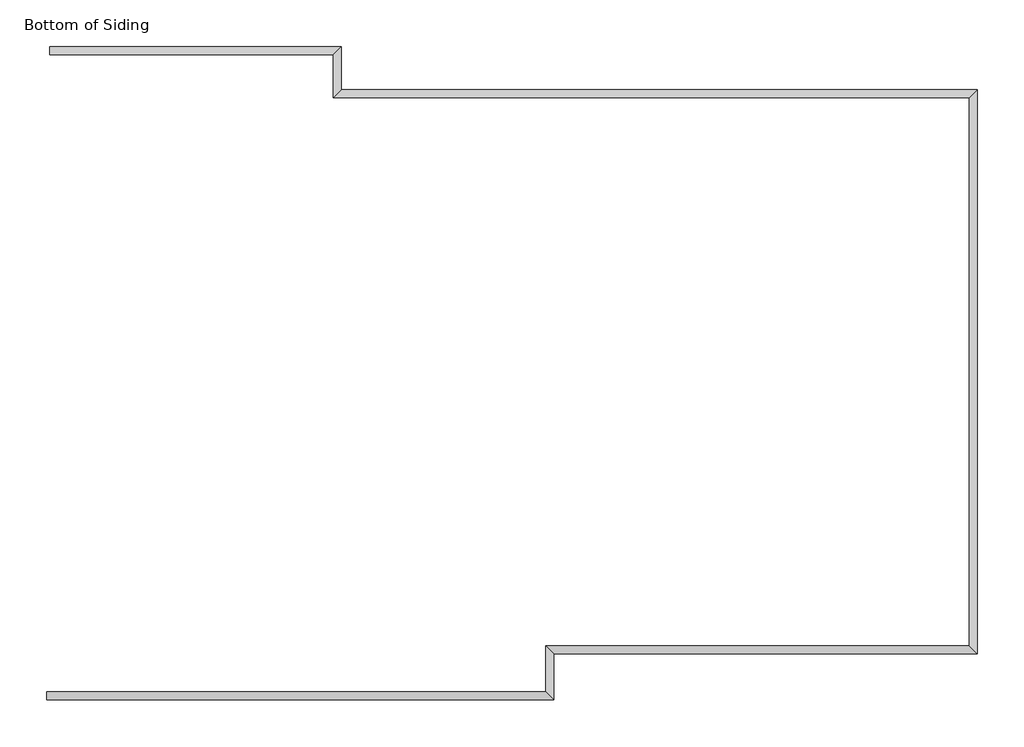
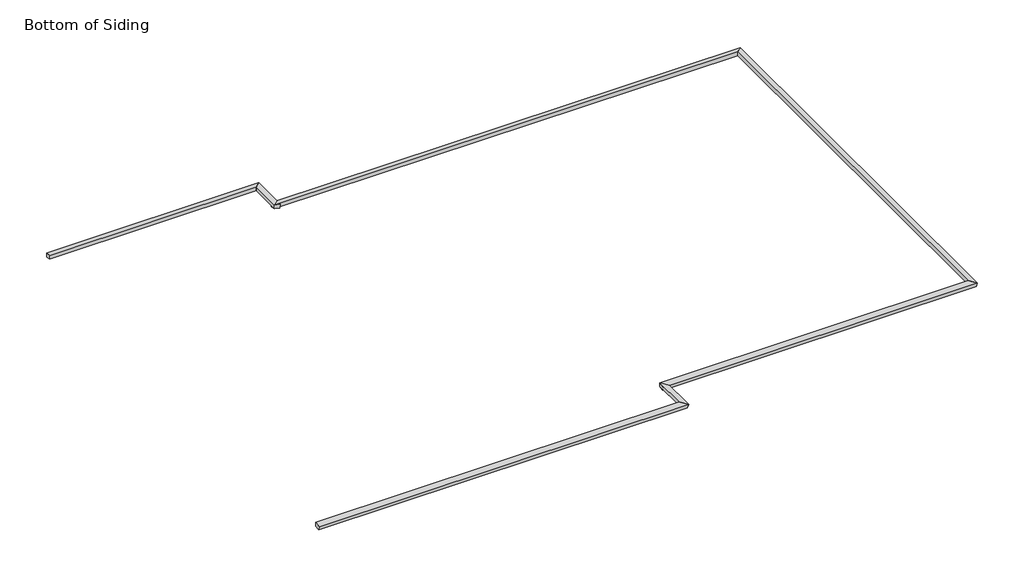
# One storey: 7 proxies.
"""IFC4 building model written with IfcOpenShell, lengths in millimetres."""

import ifcopenshell
import ifcopenshell.guid

model = None  # the IFC model being written
_history = None  # IfcOwnerHistory: only IFC2X3 demands one
_inside = {}  # id of a spatial element -> (the spatial element, [elements in it])
_under = {}  # id of a project, library or spatial element -> (it, [spatial elements below it])
_declared = {}  # id of a project -> (the project, [libraries it declares])
_typed = {}  # id of a type object -> (the type object, [elements of that type])
_made_of = {}  # id of a material, layer set ... -> (it, [elements and type objects made of it])


def new_model(schema):
    """Start an empty IFC model of exactly this schema.

    Asked for "IFC4X3", IfcOpenShell would pick the latest addendum, in which some entities
    have other attributes; the version numbers below select the first issue.
    IFC2X3 requires an IfcOwnerHistory on every rooted entity: one is made here for all.
    """
    global model, _history
    if schema == "IFC4X3":
        model = ifcopenshell.file(schema_version=(4, 3, 0, 0))
    else:
        model = ifcopenshell.file(schema=schema)
    _inside.clear()
    _under.clear()
    _declared.clear()
    _typed.clear()
    _made_of.clear()
    _history = None
    if model.schema == "IFC2X3":
        org = make("IfcOrganization", Name="unknown")
        user = make(
            "IfcPersonAndOrganization",
            ThePerson=make("IfcPerson", FamilyName="unknown"),
            TheOrganization=org,
        )
        app = make(
            "IfcApplication",
            ApplicationDeveloper=org,
            Version="unknown",
            ApplicationFullName="unknown",
            ApplicationIdentifier="unknown",
        )
        _history = make(
            "IfcOwnerHistory",
            OwningUser=user,
            OwningApplication=app,
            ChangeAction="ADDED",
            CreationDate=0,
        )
    return model


def make(cls, **values):
    """One entity of the class cls with the attributes given. An attribute that is None is left unset."""
    return model.create_entity(
        cls, **{name: value for name, value in values.items() if value is not None}
    )


def rooted(cls, **values):
    """An entity with a GlobalId (a new one), such as an element, a storey or a relation."""
    return make(cls, GlobalId=ifcopenshell.guid.new(), OwnerHistory=_history, **values)


def si_unit(unit_type, name, prefix=None):
    """IfcSIUnit, for example si_unit("LENGTHUNIT", "METRE", prefix="MILLI")."""
    return make("IfcSIUnit", UnitType=unit_type, Prefix=prefix, Name=name)


def assignment(units):
    """IfcUnitAssignment: the units of a project."""
    return None if units is None else make("IfcUnitAssignment", Units=units)


def point(xyz):
    """IfcCartesianPoint."""
    return None if xyz is None else make("IfcCartesianPoint", Coordinates=xyz)


def direction(xyz):
    """IfcDirection."""
    return None if xyz is None else make("IfcDirection", DirectionRatios=xyz)


def frame(location, z_axis=None, x_axis=None):
    """IfcAxis2Placement3D, a coordinate frame: its origin and axes. An axis left out is left unset."""
    return make(
        "IfcAxis2Placement3D",
        Location=point(location),
        Axis=direction(z_axis),
        RefDirection=direction(x_axis),
    )


def origin():
    """The frame at (0, 0, 0) with its axes left unset."""
    return frame((0.0, 0.0, 0.0))


def place(relative_to, where):
    """IfcLocalPlacement: puts the frame where relative to a parent placement (None: the world)."""
    return make(
        "IfcLocalPlacement", PlacementRelTo=relative_to, RelativePlacement=where
    )


def context(
    kind, dimensions, precision=None, world=None, true_north=None, identifier=None
):
    """IfcGeometricRepresentationContext, for example the 3D "Model" context."""
    return make(
        "IfcGeometricRepresentationContext",
        ContextIdentifier=identifier,
        ContextType=kind,
        CoordinateSpaceDimension=dimensions,
        Precision=precision,
        WorldCoordinateSystem=world,
        TrueNorth=true_north,
    )


def project(units=None, contexts=None):
    """IfcProject with its units and contexts."""
    return rooted(
        "IfcProject",
        Name="project",
        RepresentationContexts=contexts,
        UnitsInContext=assignment(units),
    )


def spatial(cls, under=None, at=None, **own):
    """A site, building, storey or space (cls), placed at a placement, below another one or the project."""
    s = rooted(cls, ObjectPlacement=at, **own)
    if under is not None:
        _under.setdefault(under.id(), (under, []))[1].append(s)
    return s


def faces_of(points, faces, orient=None, outer=None):
    """IfcFace entities. A face is a list of loops; a loop is a list of indices into points, from 0.

    orient and outer hold one flag for each loop. By default every Orientation is true, the
    first loop of a face is its IfcFaceOuterBound and the others are IfcFaceBound.
    """
    made = []
    for i, loops in enumerate(faces):
        bounds = []
        for j, loop in enumerate(loops):
            is_outer = j == 0 if outer is None else outer[i][j]
            bounds.append(
                make(
                    "IfcFaceOuterBound" if is_outer else "IfcFaceBound",
                    Bound=make("IfcPolyLoop", Polygon=[points[k] for k in loop]),
                    Orientation=True if orient is None else orient[i][j],
                )
            )
        made.append(make("IfcFace", Bounds=bounds))
    return made


def faceted_brep(points, faces, orient=None, outer=None, voids=None):
    """IfcFacetedBrep: a solid bounded by flat faces; with voids (closed shells), ...WithVoids."""
    shared = [point(p) for p in points]
    hull = make("IfcClosedShell", CfsFaces=faces_of(shared, faces, orient, outer))
    if voids is None:
        return make("IfcFacetedBrep", Outer=hull)
    return make(
        "IfcFacetedBrepWithVoids",
        Outer=hull,
        Voids=[
            make(cls, CfsFaces=faces_of(shared, fs, o, b)) for cls, fs, o, b in voids
        ],
    )


def shape(context_of_items, identifier, shape_type, items):
    """IfcShapeRepresentation: the items that make up one representation, for example the "Body"."""
    return make(
        "IfcShapeRepresentation",
        ContextOfItems=context_of_items,
        RepresentationIdentifier=identifier,
        RepresentationType=shape_type,
        Items=items,
    )


def made_of(thing, what):
    """Note that an element or type object is made of a material, layer set ...; save() writes the relation."""
    if what is not None:
        _made_of.setdefault(what.id(), (what, []))[1].append(thing)
    return thing


def element(
    cls,
    number,
    at=None,
    inside=None,
    cuts=None,
    type_object=None,
    material=None,
    context=None,
    identifier="Body",
    shape_type=None,
    held_by="IfcProductDefinitionShape",
    body=None,
    shapes=None,
    **own,
):
    """One element of the class cls, such as IfcWall. Its Tag is "e" and its number.

    at: its placement. inside: the storey or other place that contains it. cuts: it is an
    opening in that element (IfcRelVoidsElement). A single representation is given by context,
    identifier, shape_type and body (its items); several are given by shapes. held_by: the class
    of the entity that holds the representations. save() writes the other relations.
    """
    e = rooted(cls, Tag="e%d" % number, ObjectPlacement=at, **own)
    if body is not None:
        shapes = [shape(context, identifier, shape_type, body)]
    if shapes is not None:
        e.Representation = make(held_by, Representations=shapes)
    if inside is not None:
        _inside.setdefault(inside.id(), (inside, []))[1].append(e)
    if cuts is not None:
        rooted(
            "IfcRelVoidsElement", RelatingBuildingElement=cuts, RelatedOpeningElement=e
        )
    if type_object is not None:
        _typed.setdefault(type_object.id(), (type_object, []))[1].append(e)
    return made_of(e, material)


def aggregate(whole, parts):
    """IfcRelAggregates: a whole, such as a stair, and the parts it consists of."""
    return rooted("IfcRelAggregates", RelatingObject=whole, RelatedObjects=parts)


def save(model, path):
    """Write the relations noted so far, then the file.

    IfcRelAggregates (storeys below a building ...), IfcRelContainedInSpatialStructure (elements
    in a storey), IfcRelDefinesByType, IfcRelAssociatesMaterial and IfcRelDeclares: one each for
    every whole, place, type object, material and project.
    """
    for whole, parts in _under.values():
        aggregate(whole, parts)
    for where, things in _inside.values():
        rooted(
            "IfcRelContainedInSpatialStructure",
            RelatedElements=things,
            RelatingStructure=where,
        )
    for kind, things in _typed.values():
        rooted("IfcRelDefinesByType", RelatedObjects=things, RelatingType=kind)
    for what, things in _made_of.values():
        rooted("IfcRelAssociatesMaterial", RelatedObjects=things, RelatingMaterial=what)
    for by, libraries in _declared.values():
        rooted("IfcRelDeclares", RelatingContext=by, RelatedDefinitions=libraries)
    model.write(path)


model = new_model("IFC4")

# Units and contexts
model_context = context("Model", 3, world=origin())
ifc_project = project(units=[si_unit("LENGTHUNIT", "METRE", prefix="MILLI")], contexts=[model_context])

# Site, building, storey
site = spatial("IfcSite", under=ifc_project)
building = spatial("IfcBuilding", under=site)
storey = spatial("IfcBuildingStorey", under=building, Name="Bottom of Siding", Elevation=-406.4)

# Proxies
placement = place(None, origin())
element("IfcBuildingElementProxy", 1, Name="Wall Sweeps", at=placement, inside=storey, context=model_context, shape_type="Brep", body=[
    faceted_brep([(17222.3670833, 15955.0499284, -0.7137007), (17357.5661196, 16090.2489648, -26.9937312), (17341.2090185, 16073.8918636, -111.1437215), (17222.3670833, 15955.0499284, -88.0431894), (17222.3670833, 15243.8499284, -0.7137007), (17222.3670833, 15243.8499284, -88.0431894), (17226.7749916, 15243.8499284, -88.9), (17323.9670833, 15243.8499284, -107.7922288), (17341.2090185, 15243.8499284, -111.1437215), (17357.5661196, 15243.8499284, -26.9937312)], [[[0, 1, 2, 3]], [[4, 5, 6, 7, 8, 9]], [[1, 0, 4, 9]], [[2, 1, 9, 8]], [[3, 2, 8, 7, 6, 5]], [[0, 3, 5, 4]]]),
])
element("IfcBuildingElementProxy", 2, Name="Wall Sweeps", at=placement, inside=storey, context=model_context, shape_type="Brep", body=[
    faceted_brep([(12548.7670833, 15955.0499284, -0.7137007), (12548.7670833, 16090.2489648, -26.9937312), (12548.7670833, 16073.8918636, -111.1437215), (12548.7670833, 16056.6499284, -107.7922288), (12548.7670833, 15959.4578368, -88.9), (12548.7670833, 15955.0499284, -88.0431894), (17222.3670833, 15955.0499284, -0.7137007), (17222.3670833, 15955.0499284, -88.0431894), (17341.2090185, 16073.8918636, -111.1437215), (17357.5661196, 16090.2489648, -26.9937312)], [[[0, 1, 2, 3, 4, 5]], [[6, 7, 8, 9]], [[1, 0, 6, 9]], [[2, 1, 9, 8]], [[5, 4, 3, 2, 8, 7]], [[0, 5, 7, 6]]]),
])
element("IfcBuildingElementProxy", 3, Name="Wall Sweeps", at=placement, inside=storey, context=model_context, shape_type="Brep", body=[
    faceted_brep([(17222.3670833, 15243.8499284, -0.7137007), (17222.3670833, 15379.0489648, -26.9937312), (17222.3670833, 15362.6918636, -111.1437215), (17222.3670833, 15345.4499284, -107.7922288), (17222.3670833, 15248.2578368, -88.9), (17222.3670833, 15243.8499284, -88.0431894), (27712.5670833, 15243.8499284, -0.7137007), (27712.5670833, 15243.8499284, -88.0431894), (27831.4090185, 15362.6918636, -111.1437215), (27847.7661196, 15379.0489648, -26.9937312)], [[[0, 1, 2, 3, 4, 5]], [[6, 7, 8, 9]], [[1, 0, 6, 9]], [[2, 1, 9, 8]], [[5, 4, 3, 2, 8, 7]], [[0, 5, 7, 6]]]),
])
element("IfcBuildingElementProxy", 4, Name="Wall Sweeps", at=placement, inside=storey, context=model_context, shape_type="Brep", body=[
    faceted_brep([(27712.5670833, 15243.8499284, -0.7137007), (27847.7661196, 15379.0489648, -26.9937312), (27831.4090185, 15362.6918636, -111.1437215), (27712.5670833, 15243.8499284, -88.0431894), (27712.5670833, 6201.4499284, -0.7137007), (27712.5670833, 6201.4499284, -88.0431894), (27831.4090185, 6082.6079932, -111.1437215), (27847.7661196, 6066.2508921, -26.9937312)], [[[0, 1, 2, 3]], [[4, 5, 6, 7]], [[1, 0, 4, 7]], [[2, 1, 7, 6]], [[3, 2, 6, 5]], [[0, 3, 5, 4]]]),
])
element("IfcBuildingElementProxy", 5, Name="Wall Sweeps", at=placement, inside=storey, context=model_context, shape_type="Brep", body=[
    faceted_brep([(27712.5670833, 6201.4499284, -0.7137007), (27847.7661196, 6066.2508921, -26.9937312), (27831.4090185, 6082.6079932, -111.1437215), (27712.5670833, 6201.4499284, -88.0431894), (20727.5670833, 6201.4499284, -0.7137007), (20727.5670833, 6201.4499284, -88.0431894), (20727.5670833, 6197.0420201, -88.9), (20727.5670833, 6099.8499284, -107.7922288), (20727.5670833, 6082.6079932, -111.1437215), (20727.5670833, 6066.2508921, -26.9937312)], [[[0, 1, 2, 3]], [[4, 5, 6, 7, 8, 9]], [[1, 0, 4, 9]], [[2, 1, 9, 8]], [[3, 2, 8, 7, 6, 5]], [[0, 3, 5, 4]]]),
])
element("IfcBuildingElementProxy", 6, Name="Wall Sweeps", at=placement, inside=storey, context=model_context, shape_type="Brep", body=[
    faceted_brep([(20727.5670833, 6201.4499284, -0.7137007), (20862.7661196, 6201.4499284, -26.9937312), (20846.4090185, 6201.4499284, -111.1437215), (20829.1670833, 6201.4499284, -107.7922288), (20731.9749916, 6201.4499284, -88.9), (20727.5670833, 6201.4499284, -88.0431894), (20727.5670833, 5439.4499284, -0.7137007), (20727.5670833, 5439.4499284, -88.0431894), (20846.4090185, 5320.6079932, -111.1437215), (20862.7661196, 5304.2508921, -26.9937312)], [[[0, 1, 2, 3, 4, 5]], [[6, 7, 8, 9]], [[1, 0, 6, 9]], [[2, 1, 9, 8]], [[5, 4, 3, 2, 8, 7]], [[0, 5, 7, 6]]]),
])
element("IfcBuildingElementProxy", 7, Name="Wall Sweeps", at=placement, inside=storey, context=model_context, shape_type="Brep", body=[
    faceted_brep([(20727.5670833, 5439.4499284, -0.7137007), (20862.7661196, 5304.2508921, -26.9937312), (20846.4090185, 5320.6079932, -111.1437215), (20727.5670833, 5439.4499284, -88.0431894), (12493.2045833, 5439.4499284, -0.7137007), (12493.2045833, 5439.4499284, -88.0431894), (12493.2045833, 5435.0420201, -88.9), (12493.2045833, 5337.8499284, -107.7922288), (12493.2045833, 5320.6079932, -111.1437215), (12493.2045833, 5304.2508921, -26.9937312)], [[[0, 1, 2, 3]], [[4, 5, 6, 7, 8, 9]], [[1, 0, 4, 9]], [[2, 1, 9, 8]], [[3, 2, 8, 7, 6, 5]], [[0, 3, 5, 4]]]),
])

save(model, "model.ifc")
